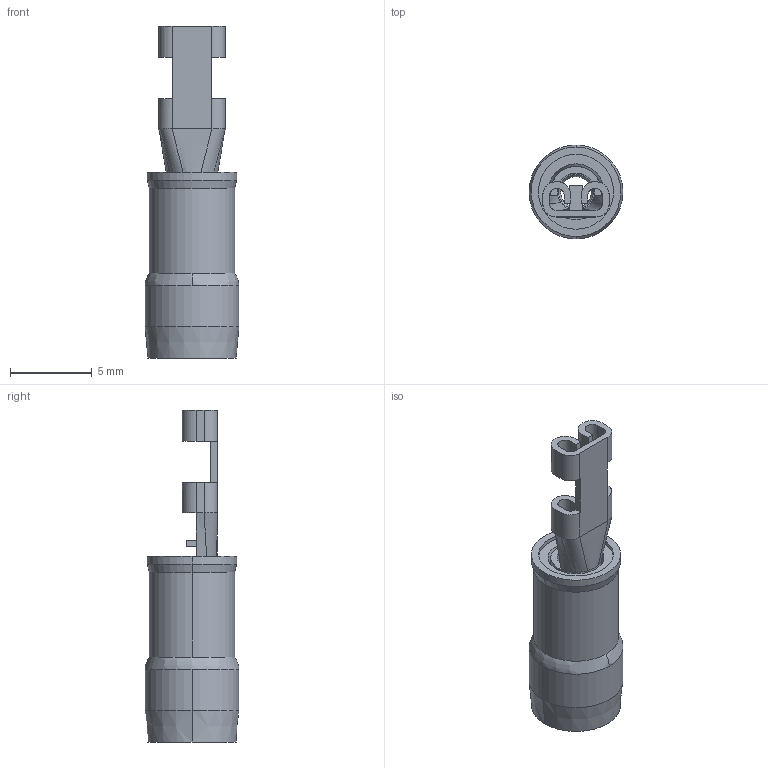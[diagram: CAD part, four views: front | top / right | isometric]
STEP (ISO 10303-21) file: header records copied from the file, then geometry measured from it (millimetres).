
FILE_DESCRIPTION (( 'STEP AP214' ), '1' );
FILE_NAME ('640929-2.STEP', '2013-04-05T12:18:57', ( 'Tester2' ), ( '' ), 'SwSTEP 2.0', 'SolidWorks 2012', '' );
FILE_SCHEMA (( 'AUTOMOTIVE_DESIGN' ));
Length unit declared in the file: millimetre
Products named in the file (1): 640929-2
Bounding box: 5.74 x 5.74 x 20.32 mm (x, y, z)
Volume: 191.9 mm3; surface area: 589.7 mm2
Topology: 2 solids, 2 shells, 104 faces, 265 edges, 167 vertices
Faces by surface type: plane 44, cylinder 34, bspline 14, cone 12
Entity records: 4914 total; most frequent: CARTESIAN_POINT 1264, ORIENTED_EDGE 530, DIRECTION 486, EDGE_CURVE 265, AXIS2_PLACEMENT_3D 168, VERTEX_POINT 167, VECTOR 150, LINE 150
